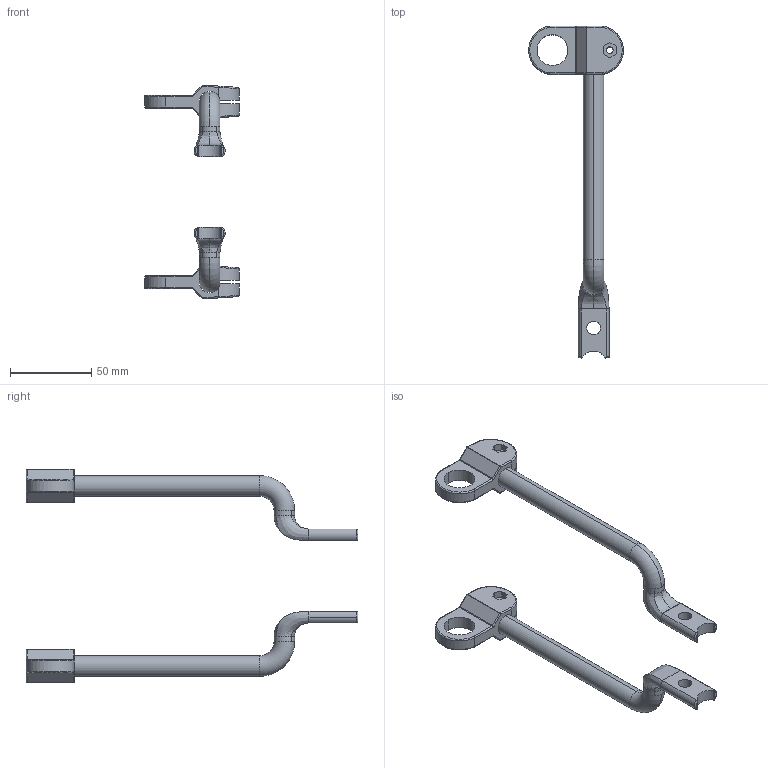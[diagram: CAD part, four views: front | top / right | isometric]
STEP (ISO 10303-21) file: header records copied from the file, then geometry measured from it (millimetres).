
FILE_DESCRIPTION((''),'2;1');
FILE_NAME('7352PM-FP_ASM','2023-03-23T',('jenni.wallner'),(''),'PRO/ENGINEER BY PARAMETRIC TECHNOLOGY CORPORATION, 2012420','PRO/ENGINEER BY PARAMETRIC TECHNOLOGY CORPORATION, 2012420','');
FILE_SCHEMA(('CONFIG_CONTROL_DESIGN'));
Length unit declared in the file: inch
Products named in the file (6): FILLET3; CHAMFER1; 516996_ASM; 807-1391; ASM0001_ASM; 7352PM-FP_ASM
Assembly tree (7 placements, depth 4):
  7352PM-FP_ASM
    ASM0001_ASM
      516996_ASM  x2
        FILLET3
        CHAMFER1
      807-1391  x2
Bounding box: 58.37 x 204.72 x 132.05 mm (x, y, z)
Volume: 81498 mm3; surface area: 32827.7 mm2
Topology: 6 solids, 6 shells, 190 faces, 458 edges, 284 vertices
Faces by surface type: cylinder 92, plane 50, bspline 30, torus 14, cone 4
Entity records: 3981 total; most frequent: CARTESIAN_POINT 1657, ORIENTED_EDGE 458, DIRECTION 456, EDGE_CURVE 229, AXIS2_PLACEMENT_3D 181, VERTEX_POINT 142, EDGE_LOOP 105, FACE_OUTER_BOUND 95
